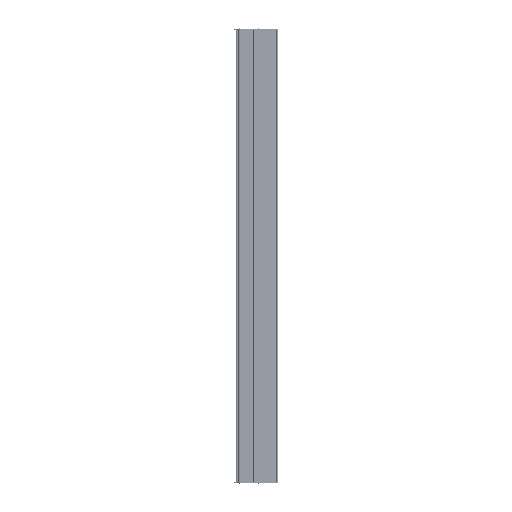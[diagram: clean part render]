
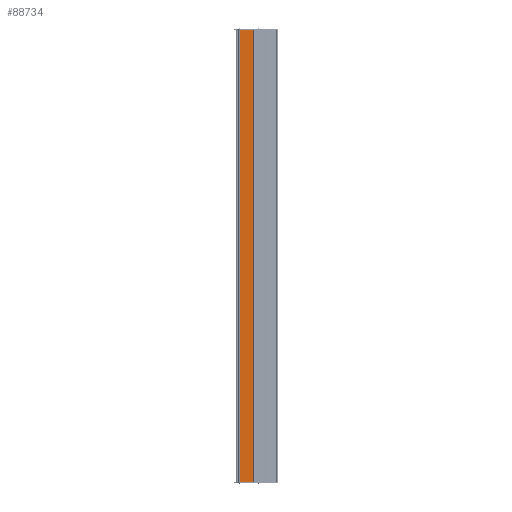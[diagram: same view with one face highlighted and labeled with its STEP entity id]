
A CAD part, left-side view. The second image highlights one B-rep face of the part: STEP entity #88734.
In plain terms, the highlighted planar face has unit normal (-1, 0, 0).
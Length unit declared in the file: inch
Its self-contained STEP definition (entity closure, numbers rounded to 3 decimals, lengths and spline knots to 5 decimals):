
#5661 = DIRECTION ( 'NONE',  ( 0., -1., 0. ) ) ;
#6483 = ORIENTED_EDGE ( 'NONE', *, *, #82228, .F. ) ;
#8560 = CARTESIAN_POINT ( 'NONE',  ( -1.25984, -1.07475, 0. ) ) ;
#11442 = DIRECTION ( 'NONE',  ( 0., -1., 0. ) ) ;
#14029 = VECTOR ( 'NONE', #18058, 39.37008 ) ;
#14512 = VECTOR ( 'NONE', #11442, 39.37008 ) ;
#14823 = EDGE_CURVE ( 'NONE', #25577, #18596, #75442, .T. ) ;
#18058 = DIRECTION ( 'NONE',  ( 0., 0., 1. ) ) ;
#18596 = VERTEX_POINT ( 'NONE', #8560 ) ;
#19075 = LINE ( 'NONE', #96240, #14029 ) ;
#19443 = CARTESIAN_POINT ( 'NONE',  ( -1.25984, 0.36417, 0. ) ) ;
#25577 = VERTEX_POINT ( 'NONE', #77793 ) ;
#25901 = ORIENTED_EDGE ( 'NONE', *, *, #14823, .T. ) ;
#28458 = CARTESIAN_POINT ( 'NONE',  ( -1.25984, -1.07475, -48. ) ) ;
#30483 = VECTOR ( 'NONE', #5661, 39.37008 ) ;
#43448 = CARTESIAN_POINT ( 'NONE',  ( -1.25984, -1.07475, -48. ) ) ;
#47383 = FACE_OUTER_BOUND ( 'NONE', #62354, .T. ) ;
#47888 = DIRECTION ( 'NONE',  ( 0., 0., 1. ) ) ;
#50038 = AXIS2_PLACEMENT_3D ( 'NONE', #62233, #86232, #47888 ) ;
#55075 = PLANE ( 'NONE',  #50038 ) ;
#57020 = CARTESIAN_POINT ( 'NONE',  ( -1.25984, 0.36417, -48. ) ) ;
#58333 = ORIENTED_EDGE ( 'NONE', *, *, #89063, .T. ) ;
#62233 = CARTESIAN_POINT ( 'NONE',  ( -1.25984, -1.07475, -48. ) ) ;
#62354 = EDGE_LOOP ( 'NONE', ( #83501, #6483, #58333, #25901 ) ) ;
#63471 = VERTEX_POINT ( 'NONE', #57020 ) ;
#67796 = DIRECTION ( 'NONE',  ( 0., 0., 1. ) ) ;
#74265 = LINE ( 'NONE', #98797, #14512 ) ;
#75442 = LINE ( 'NONE', #28458, #79102 ) ;
#77793 = CARTESIAN_POINT ( 'NONE',  ( -1.25984, -1.07475, -48. ) ) ;
#79102 = VECTOR ( 'NONE', #67796, 39.37008 ) ;
#82228 = EDGE_CURVE ( 'NONE', #63471, #95701, #19075, .T. ) ;
#83501 = ORIENTED_EDGE ( 'NONE', *, *, #90998, .F. ) ;
#86232 = DIRECTION ( 'NONE',  ( -1., 0., 0. ) ) ;
#88734 = ADVANCED_FACE ( 'NONE', ( #47383 ), #55075, .T. ) ;
#89063 = EDGE_CURVE ( 'NONE', #63471, #25577, #95098, .T. ) ;
#90998 = EDGE_CURVE ( 'NONE', #95701, #18596, #74265, .T. ) ;
#95098 = LINE ( 'NONE', #43448, #30483 ) ;
#95701 = VERTEX_POINT ( 'NONE', #19443 ) ;
#96240 = CARTESIAN_POINT ( 'NONE',  ( -1.25984, 0.36417, -48. ) ) ;
#98797 = CARTESIAN_POINT ( 'NONE',  ( -1.25984, -1.07475, 0. ) ) ;
